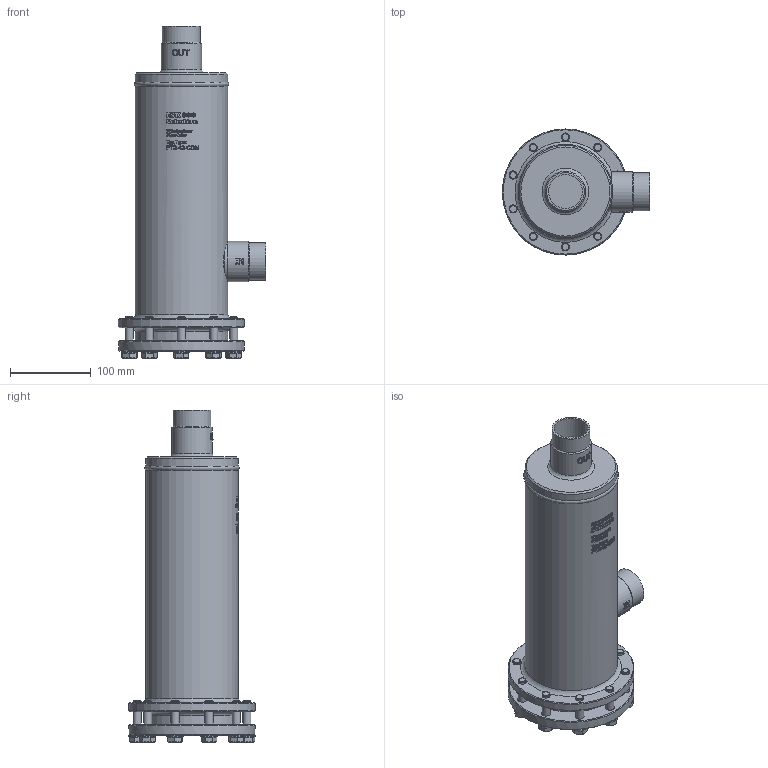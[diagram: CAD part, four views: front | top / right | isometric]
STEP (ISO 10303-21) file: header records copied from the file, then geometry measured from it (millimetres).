
FILE_DESCRIPTION(/* description */ (''),/* implementation_level */ '2;1');
FILE_NAME(/* name */ 'P:\FT\FT2-42-CDM\FT2-42-CDM.stp',/* time_stamp */ '2017-10-05T08:22:34+02:00',/* author */ ('neufeld'),/* organization */ (''),/* preprocessor_version */ 'ST-DEVELOPER v16.1',/* originating_system */ 'Autodesk Inventor 2016',/* authorisation */ '');
FILE_SCHEMA (('AUTOMOTIVE_DESIGN { 1 0 10303 214 3 1 1 }'));
Length unit declared in the file: millimetre
Products named in the file (2): FT2-42-CDM; FT2-42-CDM_1
Assembly tree (1 placements, depth 2):
  FT2-42-CDM_1
    FT2-42-CDM
Bounding box: 182.15 x 156 x 410.9 mm (x, y, z)
Volume: 3909090.8 mm3; surface area: 227293.2 mm2
Topology: 1 solids, 1 shells, 1260 faces, 3261 edges, 2141 vertices
Faces by surface type: plane 733, bspline 269, cylinder 167, cone 87, torus 4
Full cylindrical faces by diameter (mm): 9.188 x10, 10 x20, 10.5 x10, 11 x10, 15.4 x10, 20 x10, 42.2 x2, 47 x2, 50 x2, 114.3 x3, 115 x1, 115.2 x1, 156 x2
Entity records: 43094 total; most frequent: CARTESIAN_POINT 14190, ORIENTED_EDGE 6210, DIRECTION 5451, EDGE_CURVE 3103, VERTEX_POINT 2098, AXIS2_PLACEMENT_3D 2018, EDGE_LOOP 1533, LINE 1415
